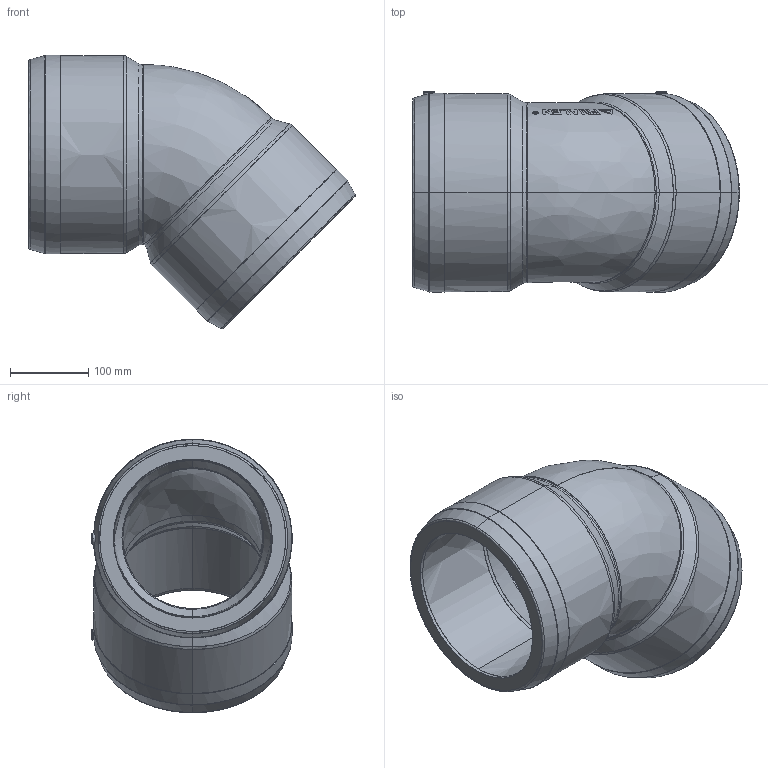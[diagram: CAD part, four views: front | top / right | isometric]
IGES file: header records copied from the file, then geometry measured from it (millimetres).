
Start section:  PTC IGES file: w45_d200_01.igs
Global section: file name: w45_d200_01.igs; native system: Pro/ENGINEER by Parametric Technology Corporation; preprocessor: 2011490; author: mtunjic; organization: Unknown; date: 20130812.112658; units: millimetre
Bounding box: 417.73 x 256.05 x 349.73 mm (x, y, z)
Surface area: 568882 mm2 (no closed solid volume)
Topology: 0 solids, 0 shells, 266 faces, 1342 edges, 1340 vertices
Faces by surface type: bspline 266
